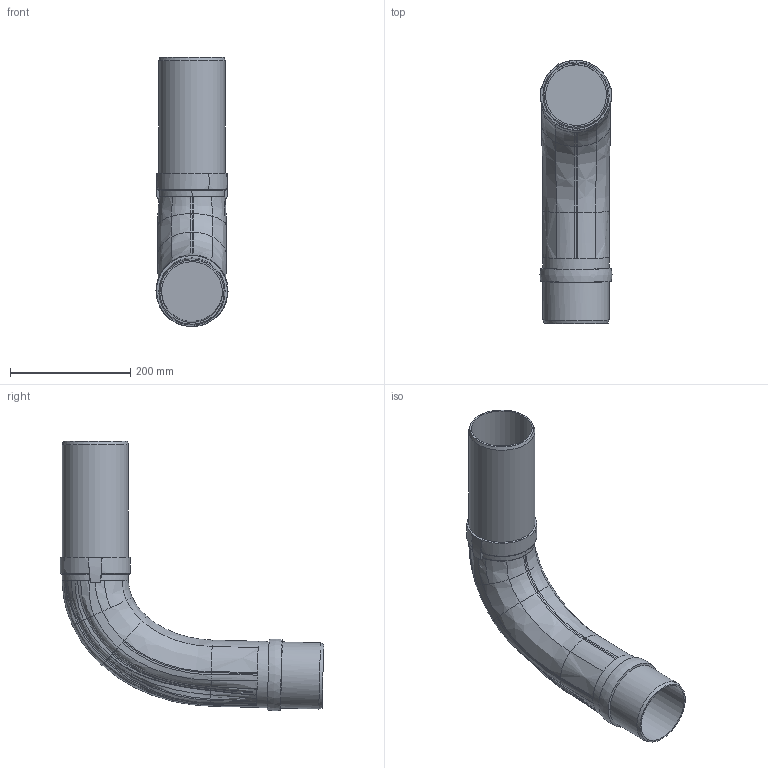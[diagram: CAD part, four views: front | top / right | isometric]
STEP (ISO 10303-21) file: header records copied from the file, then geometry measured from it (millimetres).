
FILE_DESCRIPTION(/* description */ (''),/* implementation_level */ '2;1');
FILE_NAME(/* name */ 'C:\Planerdaten\Export PLA\393.525.14.1\stp\393525.stp',/* time_stamp */ '2022-09-16T14:46:29+02:00',/* author */ ('JANAN'),/* organization */ (''),/* preprocessor_version */ 'ST-DEVELOPER v18.1',/* originating_system */ 'Autodesk Inventor 2021',/* authorisation */ '');
FILE_SCHEMA (('AUTOMOTIVE_DESIGN { 1 0 10303 214 3 1 1 }'));
Length unit declared in the file: millimetre
Products named in the file (1): tmp4439.tmp
Bounding box: 119.98 x 438.77 x 448.48 mm (x, y, z)
Volume: 4489696.7 mm3; surface area: 349473.4 mm2
Topology: 1 solids, 1 shells, 175 faces, 490 edges, 320 vertices
Faces by surface type: bspline 142, cylinder 11, plane 9, cone 6, torus 6, sphere 1
Full cylindrical faces by diameter (mm): 101.2 x2, 110.2 x3
Entity records: 17032 total; most frequent: CARTESIAN_POINT 12996, ORIENTED_EDGE 980, DIRECTION 555, EDGE_CURVE 490, VERTEX_POINT 320, AXIS2_PLACEMENT_3D 258, B_SPLINE_CURVE_WITH_KNOTS 227, CIRCLE 191
